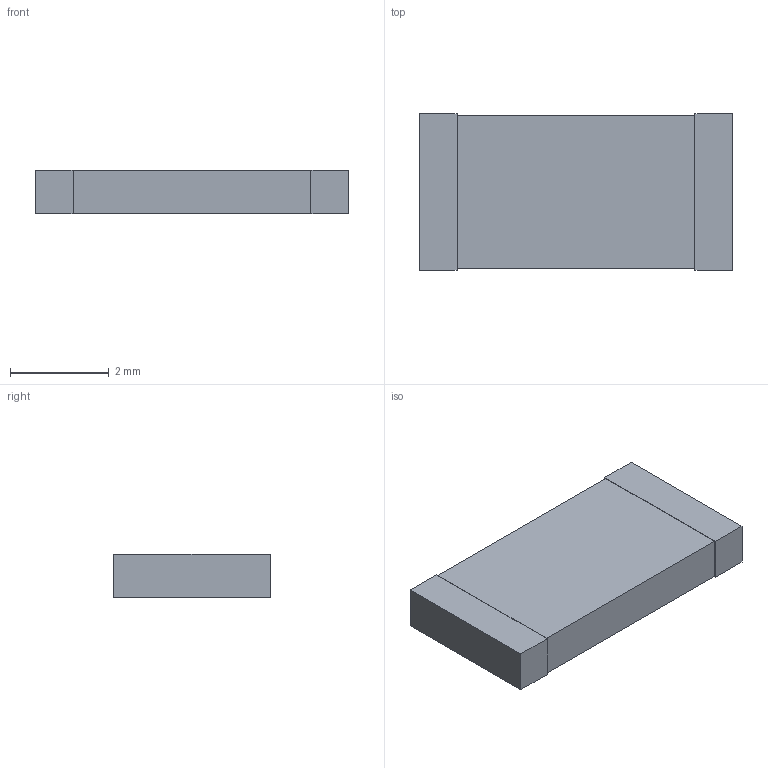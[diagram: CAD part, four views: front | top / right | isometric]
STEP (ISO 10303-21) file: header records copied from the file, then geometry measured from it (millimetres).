
FILE_DESCRIPTION(('FreeCAD Model'),'2;1');
FILE_NAME('/var/www/3D/0T/825602.4.1.stp','2018-01-09T19:47:08',( 'Author'),(''),'Open CASCADE STEP processor 6.8','FreeCAD','Unknown' );
FILE_SCHEMA(('AUTOMOTIVE_DESIGN_CC2 { 1 2 10303 214 -1 1 5 4 }'));
Length unit declared in the file: millimetre
Products named in the file (4): ASSEMBLY; term1; term2; body
Assembly tree (3 placements, depth 2):
  ASSEMBLY
    term1
    term2
    body
Bounding box: 6.35 x 3.18 x 0.89 mm (x, y, z)
Volume: 17.4 mm3; surface area: 67.7 mm2
Topology: 3 solids, 3 shells, 18 faces, 36 edges, 24 vertices
Faces by surface type: plane 18
Entity records: 1020 total; most frequent: CARTESIAN_POINT 154, DIRECTION 152, LINE 108, VECTOR 108, ORIENTED_EDGE 72, PCURVE 72, DEFINITIONAL_REPRESENTATION 72, EDGE_CURVE 36
